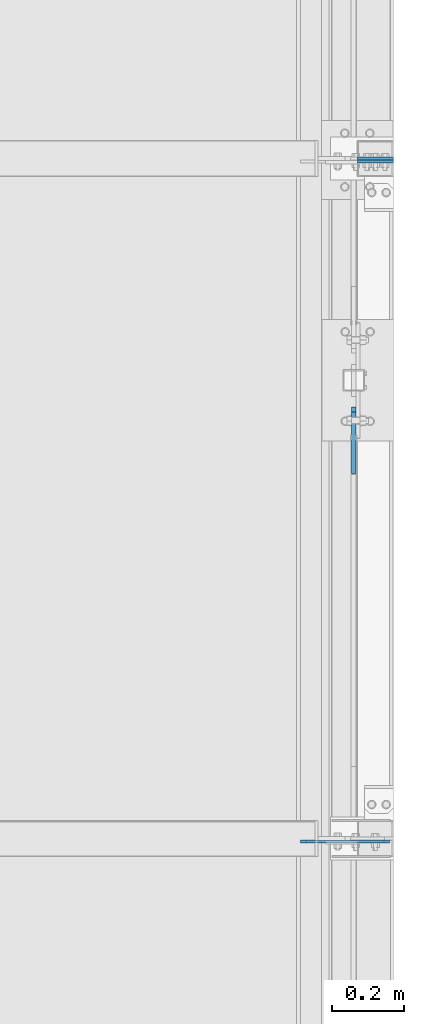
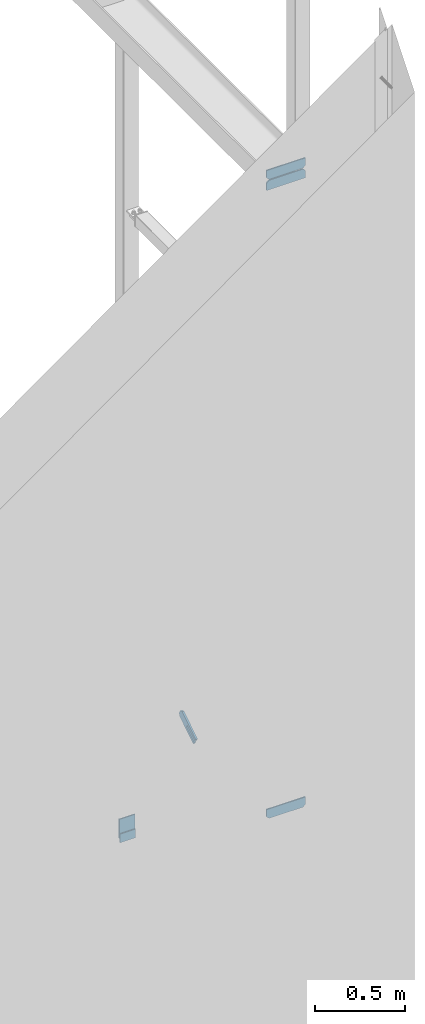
# One storey, part 167 of 271: 6 plates, 5 elements without a shape of their own.
"""IFC2X3 building model written with IfcOpenShell, lengths in millimetres."""

from ifc_helpers import new_model, si_unit, frame, origin_with_axes, place, context, subcontext, project, spatial, polyline, outline, extrude, material, type_object, element, aggregate, save


model = new_model("IFC2X3")

# Units and contexts
model_context = context("Model", 3, precision=1e-05, world=origin_with_axes())
body_context = subcontext(model_context, "Body", "Model", "MODEL_VIEW")
ifc_project = project(units=[si_unit("LENGTHUNIT", "METRE", prefix="MILLI"), si_unit("AREAUNIT", "SQUARE_METRE"), si_unit("VOLUMEUNIT", "CUBIC_METRE"), si_unit("MASSUNIT", "GRAM", prefix="KILO"), si_unit("TIMEUNIT", "SECOND"), si_unit("PLANEANGLEUNIT", "RADIAN"), si_unit("SOLIDANGLEUNIT", "STERADIAN"), si_unit("THERMODYNAMICTEMPERATUREUNIT", "DEGREE_CELSIUS"), si_unit("LUMINOUSINTENSITYUNIT", "LUMEN")], contexts=[model_context])

# Site, building, storey
site_placement = place(None, origin_with_axes())
site = spatial("IfcSite", under=ifc_project, at=site_placement, Name="Undefined", CompositionType="ELEMENT")
building_placement = place(site_placement, origin_with_axes())
building = spatial("IfcBuilding", under=site, at=building_placement, Name="Undefined", CompositionType="ELEMENT")
storey_placement = place(building_placement, origin_with_axes())
storey = spatial("IfcBuildingStorey", under=building, at=storey_placement, Name="Undefined", CompositionType="ELEMENT", Elevation=0.0)

# Assembly, plate
assembly_1_placement = place(storey_placement, origin_with_axes())
assembly_1 = element("IfcElementAssembly", 1, at=assembly_1_placement, inside=storey, AssemblyPlace="NOTDEFINED", PredefinedType="RIGID_FRAME")
ifc_material = material(Name="STEEL/S355JR")
plate_type_1 = type_object("IfcPlateType", Name="BL8*100", PredefinedType="NOTDEFINED")
plate_1_placement = place(assembly_1_placement, frame((12708.3756870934, 2799.05225536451, 152.849999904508), z_axis=(0.0, 1.0, 0.0), x_axis=(0.0, 0.0, -1.0)))
plate_1 = element("IfcPlate", 2, at=plate_1_placement, type_object=plate_type_1, material=ifc_material, Name="BLACHA", ObjectType="BL8*100", context=body_context, shape_type="SweptSolid", body=[
    extrude(outline(polyline([(0.0, 0.0), (130.0, -1.68906158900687e-12), (140.0, 9.99999999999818), (140.0, 90.0), (130.0, 100.0), (1.59161572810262e-12, 100.0), (0.0, 0.0)])), frame((0.0, 0.0, -4.0), z_axis=(0.0, 0.0, 1.0), x_axis=(1.0, 0.0, 0.0)), (0.0, 0.0, 1.0), 8.0),
])
aggregate(assembly_1, [plate_1])

assembly_2_placement = place(storey_placement, origin_with_axes())
assembly_2 = element("IfcElementAssembly", 3, at=assembly_2_placement, inside=storey, AssemblyPlace="NOTDEFINED", PredefinedType="RIGID_FRAME")
plate_type_2 = type_object("IfcPlateType", Name="BL8*58", PredefinedType="NOTDEFINED")
plate_2_placement = place(assembly_2_placement, frame((12608.3756870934, 2791.05211980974, 7.73070496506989e-12), z_axis=(0.0, 1.0, 0.0), x_axis=(0.0, 0.0, 1.0)))
plate_2 = element("IfcPlate", 4, at=plate_2_placement, type_object=plate_type_2, material=ifc_material, Name="BLACHA", ObjectType="BL8*58", context=body_context, shape_type="SweptSolid", body=[
    extrude(outline(polyline([(0.0, 0.0), (57.8499984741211, 0.0), (57.8499984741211, 100.0), (1.59161572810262e-12, 100.0), (0.0, 0.0)])), frame((0.0, 0.0, -4.0), z_axis=(0.0, 0.0, 1.0), x_axis=(1.0, 0.0, 0.0)), (0.0, 0.0, 1.0), 8.0),
])
aggregate(assembly_2, [plate_2])

assembly_3_placement = place(storey_placement, origin_with_axes())
assembly_3 = element("IfcElementAssembly", 5, at=assembly_3_placement, inside=storey, AssemblyPlace="NOTDEFINED", PredefinedType="RIGID_FRAME")
plate_type_3 = type_object("IfcPlateType", Name="BL12*56", PredefinedType="NOTDEFINED")
plate_3_placement = place(assembly_3_placement, frame((12597.7513748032, 2069.65911601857, 1327.10969760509), z_axis=(-1.0, 0.0, 1.38777878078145e-17), x_axis=(0.0, 0.975735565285, -0.218952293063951)))
plate_3 = element("IfcPlate", 6, at=plate_3_placement, type_object=plate_type_3, material=ifc_material, Name="BLACHA", ObjectType="BL12*56", context=body_context, shape_type="SweptSolid", body=[
    extrude(outline(polyline([(0.0, 0.0), (21.2132034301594, 1.09139364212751e-11), (39.5979804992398, 18.3847751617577), (39.5979804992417, 39.5979804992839), (-86.9741363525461, 166.170089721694), (-100.762718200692, 152.381515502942), (-30.0520401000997, 81.670829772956), (-42.0728530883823, 69.6500167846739), (-112.783531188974, 140.36070251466), (-126.57211303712, 126.57211303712), (0.0, 0.0)])), frame((0.0, 0.0, -6.0), z_axis=(0.0, 0.0, 1.0), x_axis=(1.0, 0.0, 0.0)), (0.0, 0.0, 1.0), 12.0),
])
aggregate(assembly_3, [plate_3])

assembly_4_placement = place(storey_placement, origin_with_axes())
assembly_4 = element("IfcElementAssembly", 7, at=assembly_4_placement, inside=storey, AssemblyPlace="NOTDEFINED", PredefinedType="RIGID_FRAME")
plate_type_4 = type_object("IfcPlateType", Name="BL8*64", PredefinedType="NOTDEFINED")
plate_4_placement = place(assembly_4_placement, frame((12449.5756869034, 891.052119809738, 1367.64999985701), z_axis=(0.0, 1.0, 0.0), x_axis=(0.0, 0.0, 1.0)))
plate_4 = element("IfcPlate", 8, at=plate_4_placement, type_object=plate_type_4, material=ifc_material, Name="BLACHA", ObjectType="BL8*64", context=body_context, shape_type="SweptSolid", body=[
    extrude(outline(polyline([(0.0, 15.0), (15.0, -1.59872115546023e-14), (64.1999969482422, -1.77635683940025e-14), (64.1999969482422, 247.600006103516), (15.0, 247.600006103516), (0.0, 232.600006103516), (0.0, 15.0)])), frame((0.0, 0.0, -4.0), z_axis=(0.0, 0.0, 1.0), x_axis=(1.0, 0.0, 0.0)), (0.0, 0.0, 1.0), 8.0),
])
aggregate(assembly_4, [plate_4])

# Assembly, plates
assembly_5_placement = place(storey_placement, origin_with_axes())
assembly_5 = element("IfcElementAssembly", 9, at=assembly_5_placement, inside=storey, AssemblyPlace="NOTDEFINED", PredefinedType="RIGID_FRAME")
plate_5_placement = place(assembly_5_placement, frame((12449.5756869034, 891.052119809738, 5616.84999990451), z_axis=(0.0, 1.0, 0.0), x_axis=(0.0, 0.0, 1.0)))
plate_5 = element("IfcPlate", 10, at=plate_5_placement, type_object=plate_type_4, material=ifc_material, Name="BLACHA", ObjectType="BL8*64", context=body_context, shape_type="SweptSolid", body=[
    extrude(outline(polyline([(0.0, 0.0), (49.1999969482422, 0.0), (64.1999969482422, 15.0), (64.1999969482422, 232.600006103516), (49.1999969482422, 247.600006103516), (0.0, 247.600006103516), (0.0, 0.0)])), frame((0.0, 0.0, -4.0), z_axis=(0.0, 0.0, 1.0), x_axis=(1.0, 0.0, 0.0)), (0.0, 0.0, 1.0), 8.0),
])
plate_6_placement = place(assembly_5_placement, frame((12449.5756869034, 891.052119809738, 5687.64999985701), z_axis=(0.0, 1.0, 0.0), x_axis=(0.0, 0.0, 1.0)))
plate_6 = element("IfcPlate", 11, at=plate_6_placement, type_object=plate_type_4, material=ifc_material, Name="BLACHA", ObjectType="BL8*64", context=body_context, shape_type="SweptSolid", body=[
    extrude(outline(polyline([(0.0, 15.0), (15.0, -1.59872115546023e-14), (64.1999969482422, -1.77635683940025e-14), (64.1999969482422, 247.600006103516), (15.0, 247.600006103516), (0.0, 232.600006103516), (0.0, 15.0)])), frame((0.0, 0.0, -4.0), z_axis=(0.0, 0.0, 1.0), x_axis=(1.0, 0.0, 0.0)), (0.0, 0.0, 1.0), 8.0),
])
aggregate(assembly_5, [plate_5, plate_6])

save(model, "model.ifc")
